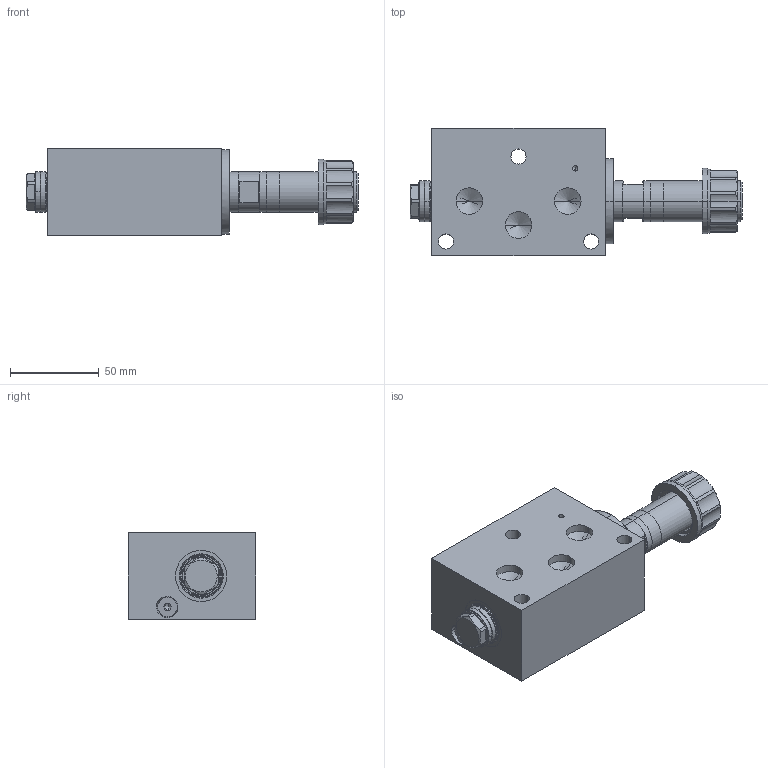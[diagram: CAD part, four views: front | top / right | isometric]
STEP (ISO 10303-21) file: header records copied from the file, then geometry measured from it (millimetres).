
FILE_DESCRIPTION (( 'STEP AP214' ), '1' );
FILE_NAME ('Control Section CMVA-MA06-A actuation at B.STEP', '2025-11-12T13:25:37', ( '' ), ( '' ), 'SwSTEP 2.0', 'SolidWorks 2024', '' );
FILE_SCHEMA (( 'AUTOMOTIVE_DESIGN' ));
Length unit declared in the file: millimetre
Products named in the file (1): Control Section CMVA-MA06-A actuation at B
Bounding box: 187.55 x 72 x 49 mm (x, y, z)
Volume: 355994.8 mm3; surface area: 71354.6 mm2
Topology: 21 solids, 21 shells, 1216 faces, 2949 edges, 1815 vertices
Faces by surface type: plane 599, cylinder 273, cone 203, bspline 79, torus 62
Entity records: 38058 total; most frequent: CARTESIAN_POINT 9490, DIRECTION 6007, ORIENTED_EDGE 5806, EDGE_CURVE 2903, AXIS2_PLACEMENT_3D 2180, VERTEX_POINT 1815, LINE 1647, VECTOR 1647
